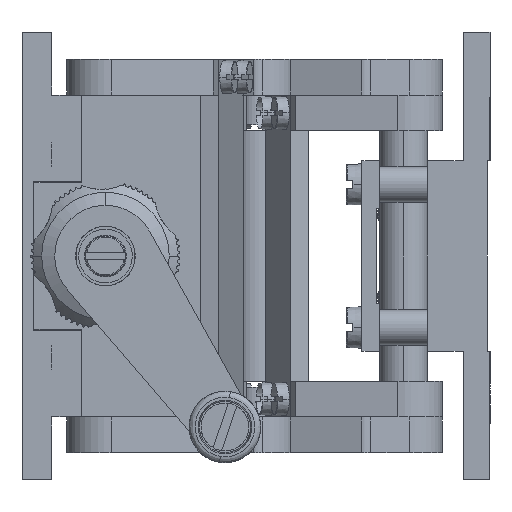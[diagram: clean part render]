
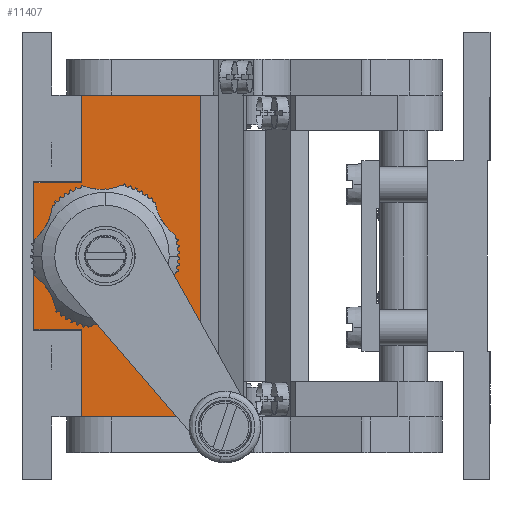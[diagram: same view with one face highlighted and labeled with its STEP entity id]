
A CAD part, left-side view. The second image highlights one B-rep face of the part: STEP entity #11407.
In plain terms, the highlighted planar face has unit normal (-1, 0, 0).
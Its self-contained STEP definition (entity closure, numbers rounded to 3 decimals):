
#41 = DIRECTION ( 'NONE',  ( 0., -1., 0. ) ) ;
#483 = AXIS2_PLACEMENT_3D ( 'NONE', #25470, #37362, #7526 ) ;
#1044 = DIRECTION ( 'NONE',  ( 1., 0., 0. ) ) ;
#1491 = CARTESIAN_POINT ( 'NONE',  ( -85.628, 48.523, 85.441 ) ) ;
#1761 = LINE ( 'NONE', #20196, #16640 ) ;
#2170 = VERTEX_POINT ( 'NONE', #28013 ) ;
#3528 = CARTESIAN_POINT ( 'NONE',  ( -85.628, 64.523, 58.441 ) ) ;
#4354 = VERTEX_POINT ( 'NONE', #37220 ) ;
#4516 = ORIENTED_EDGE ( 'NONE', *, *, #23567, .T. ) ;
#4722 = VERTEX_POINT ( 'NONE', #10931 ) ;
#4783 = CARTESIAN_POINT ( 'NONE',  ( -85.628, 48.523, 58.441 ) ) ;
#5861 = CARTESIAN_POINT ( 'NONE',  ( -85.628, 68.523, 58.441 ) ) ;
#5940 = CARTESIAN_POINT ( 'NONE',  ( -85.628, 76.523, 70.691 ) ) ;
#5965 = FACE_BOUND ( 'NONE', #26686, .T. ) ;
#7280 = DIRECTION ( 'NONE',  ( -1., 0., 0. ) ) ;
#7526 = DIRECTION ( 'NONE',  ( 0., 0., 1. ) ) ;
#7781 = ORIENTED_EDGE ( 'NONE', *, *, #30810, .T. ) ;
#8365 = CIRCLE ( 'NONE', #22691, 11.25 ) ;
#8628 = CARTESIAN_POINT ( 'NONE',  ( -85.628, 76.523, 70.691 ) ) ;
#9140 = ORIENTED_EDGE ( 'NONE', *, *, #14624, .T. ) ;
#9384 = LINE ( 'NONE', #4783, #23365 ) ;
#9895 = ORIENTED_EDGE ( 'NONE', *, *, #12530, .T. ) ;
#10603 = CARTESIAN_POINT ( 'NONE',  ( -85.628, 68.523, 46.191 ) ) ;
#10931 = CARTESIAN_POINT ( 'NONE',  ( -85.628, 68.523, 70.691 ) ) ;
#11275 = ORIENTED_EDGE ( 'NONE', *, *, #29735, .T. ) ;
#11407 = ADVANCED_FACE ( 'NONE', ( #18036, #5965 ), #13116, .T. ) ;
#11479 = VERTEX_POINT ( 'NONE', #34759 ) ;
#12530 = EDGE_CURVE ( 'NONE', #29993, #21029, #33106, .T. ) ;
#13116 = PLANE ( 'NONE',  #20898 ) ;
#13325 = ORIENTED_EDGE ( 'NONE', *, *, #36321, .T. ) ;
#13377 = VECTOR ( 'NONE', #38418, 1000. ) ;
#14010 = DIRECTION ( 'NONE',  ( 0., 0., 1. ) ) ;
#14624 = EDGE_CURVE ( 'NONE', #11479, #4354, #31822, .T. ) ;
#14656 = LINE ( 'NONE', #36000, #35102 ) ;
#14817 = EDGE_CURVE ( 'NONE', #34029, #22813, #14656, .T. ) ;
#15083 = LINE ( 'NONE', #8628, #26720 ) ;
#15380 = DIRECTION ( 'NONE',  ( 0., 0., -1. ) ) ;
#16640 = VECTOR ( 'NONE', #38060, 1000. ) ;
#17131 = EDGE_LOOP ( 'NONE', ( #27947, #9140, #11275, #4516, #33391, #13325, #25138, #7781 ) ) ;
#17930 = CARTESIAN_POINT ( 'NONE',  ( -85.628, 68.523, 58.441 ) ) ;
#18036 = FACE_OUTER_BOUND ( 'NONE', #17131, .T. ) ;
#18358 = DIRECTION ( 'NONE',  ( 0., -1., 0. ) ) ;
#19645 = LINE ( 'NONE', #36104, #30277 ) ;
#20196 = CARTESIAN_POINT ( 'NONE',  ( -85.628, 76.523, 85.441 ) ) ;
#20898 = AXIS2_PLACEMENT_3D ( 'NONE', #33863, #7280, #14010 ) ;
#21029 = VERTEX_POINT ( 'NONE', #31548 ) ;
#21049 = EDGE_CURVE ( 'NONE', #2170, #4722, #25070, .T. ) ;
#21643 = VERTEX_POINT ( 'NONE', #10603 ) ;
#22691 = AXIS2_PLACEMENT_3D ( 'NONE', #3528, #1044, #24347 ) ;
#22813 = VERTEX_POINT ( 'NONE', #24523 ) ;
#22844 = DIRECTION ( 'NONE',  ( 0., 0., 1. ) ) ;
#23365 = VECTOR ( 'NONE', #22844, 1000. ) ;
#23371 = EDGE_CURVE ( 'NONE', #21029, #29993, #8365, .T. ) ;
#23567 = EDGE_CURVE ( 'NONE', #37171, #2170, #1761, .T. ) ;
#23601 = ORIENTED_EDGE ( 'NONE', *, *, #23371, .T. ) ;
#24347 = DIRECTION ( 'NONE',  ( 0., 0., 1. ) ) ;
#24523 = CARTESIAN_POINT ( 'NONE',  ( -85.628, 76.523, 46.191 ) ) ;
#25070 = LINE ( 'NONE', #5861, #13377 ) ;
#25138 = ORIENTED_EDGE ( 'NONE', *, *, #14817, .T. ) ;
#25470 = CARTESIAN_POINT ( 'NONE',  ( -85.628, 64.523, 58.441 ) ) ;
#26686 = EDGE_LOOP ( 'NONE', ( #9895, #23601 ) ) ;
#26687 = CARTESIAN_POINT ( 'NONE',  ( -85.628, 76.523, 31.441 ) ) ;
#26720 = VECTOR ( 'NONE', #37974, 1000. ) ;
#26793 = EDGE_CURVE ( 'NONE', #21643, #11479, #36144, .T. ) ;
#27947 = ORIENTED_EDGE ( 'NONE', *, *, #26793, .T. ) ;
#28013 = CARTESIAN_POINT ( 'NONE',  ( -85.628, 68.523, 85.441 ) ) ;
#29735 = EDGE_CURVE ( 'NONE', #4354, #37171, #9384, .T. ) ;
#29993 = VERTEX_POINT ( 'NONE', #33625 ) ;
#30093 = DIRECTION ( 'NONE',  ( 0., 0., -1. ) ) ;
#30277 = VECTOR ( 'NONE', #18358, 1000. ) ;
#30810 = EDGE_CURVE ( 'NONE', #22813, #21643, #19645, .T. ) ;
#31548 = CARTESIAN_POINT ( 'NONE',  ( -85.628, 64.523, 47.191 ) ) ;
#31822 = LINE ( 'NONE', #26687, #37441 ) ;
#33106 = CIRCLE ( 'NONE', #483, 11.25 ) ;
#33391 = ORIENTED_EDGE ( 'NONE', *, *, #21049, .T. ) ;
#33625 = CARTESIAN_POINT ( 'NONE',  ( -85.628, 64.523, 69.691 ) ) ;
#33842 = VECTOR ( 'NONE', #30093, 1000. ) ;
#33863 = CARTESIAN_POINT ( 'NONE',  ( -85.628, 76.523, 58.441 ) ) ;
#34029 = VERTEX_POINT ( 'NONE', #5940 ) ;
#34759 = CARTESIAN_POINT ( 'NONE',  ( -85.628, 68.523, 31.441 ) ) ;
#35102 = VECTOR ( 'NONE', #15380, 1000. ) ;
#36000 = CARTESIAN_POINT ( 'NONE',  ( -85.628, 76.523, 58.441 ) ) ;
#36104 = CARTESIAN_POINT ( 'NONE',  ( -85.628, 76.523, 46.191 ) ) ;
#36144 = LINE ( 'NONE', #17930, #33842 ) ;
#36321 = EDGE_CURVE ( 'NONE', #4722, #34029, #15083, .T. ) ;
#37171 = VERTEX_POINT ( 'NONE', #1491 ) ;
#37220 = CARTESIAN_POINT ( 'NONE',  ( -85.628, 48.523, 31.441 ) ) ;
#37362 = DIRECTION ( 'NONE',  ( 1., 0., 0. ) ) ;
#37441 = VECTOR ( 'NONE', #41, 1000. ) ;
#37974 = DIRECTION ( 'NONE',  ( 0., 1., 0. ) ) ;
#38060 = DIRECTION ( 'NONE',  ( 0., 1., 0. ) ) ;
#38418 = DIRECTION ( 'NONE',  ( 0., 0., -1. ) ) ;
